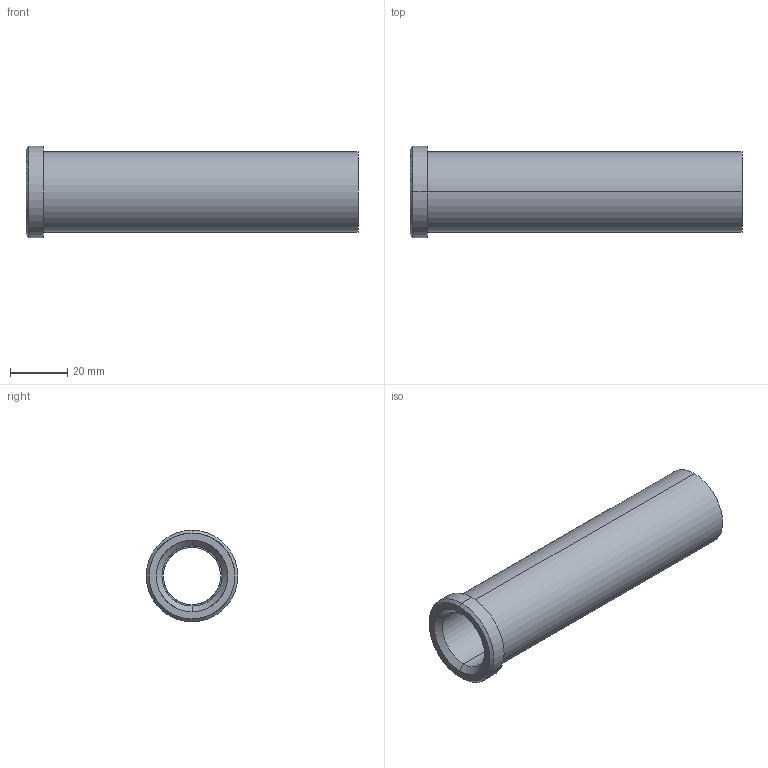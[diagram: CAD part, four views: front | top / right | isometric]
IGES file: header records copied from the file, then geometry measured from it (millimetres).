
Start section: START RECORD GO HERE.
Global section: file name: 353-20X116.igs; native system: DASSAULT SYSTEMES CATIA V5 R20 - www.3ds.com; preprocessor: CATIA Version 5 Release 20 ; author: Utente; organization: NB04-ASUS; date: 20210508.105137; units: millimetre
Bounding box: 116 x 32 x 32 mm (x, y, z)
Surface area: 18615 mm2 (no closed solid volume)
Topology: 0 solids, 0 shells, 18 faces, 116 edges, 116 vertices
Faces by surface type: revolution 14, plane 4
